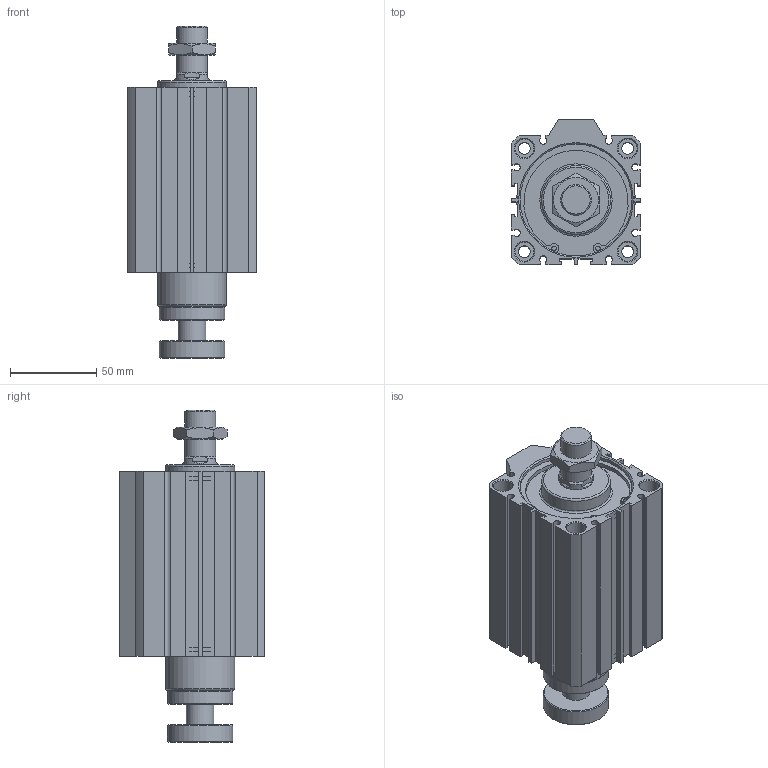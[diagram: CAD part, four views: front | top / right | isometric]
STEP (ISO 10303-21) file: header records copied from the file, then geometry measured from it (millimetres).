
FILE_DESCRIPTION((''),'2;1');
FILE_NAME('I:\3D電子目錄\氣缸\JDAR\JDAR-BS\JDAR63-BS\JDAR63x65-BS.stp','2007-05-05T14:39:10',('662F206'),(''),'Autodesk Inventor 11','Autodesk Inventor 11','');
FILE_SCHEMA(('AUTOMOTIVE_DESIGN { 1 0 10303 214 1 1 1 1 }'));
Length unit declared in the file: millimetre
Products named in the file (3): JDAR63-BS; R 形環 65
Assembly tree (3 placements, depth 2):
  JDAR63-BS
    JDAR63-BS
    R 形環 65  x2
Bounding box: 75 x 84.5 x 192.8 mm (x, y, z)
Volume: 617434.1 mm3; surface area: 88278.6 mm2
Topology: 3 solids, 3 shells, 203 faces, 490 edges, 319 vertices
Faces by surface type: plane 118, cylinder 56, cone 25, bspline 2, torus 2
Full cylindrical faces by diameter (mm): 2.7 x4, 3 x2, 6.8 x4, 11 x8, 16 x1, 18 x2, 20 x1, 38 x2, 40 x2, 65 x4, 68 x2
Entity records: 5389 total; most frequent: CARTESIAN_POINT 1017, DIRECTION 902, ORIENTED_EDGE 798, EDGE_CURVE 399, AXIS2_PLACEMENT_3D 328, VERTEX_POINT 293, EDGE_LOOP 284, VECTOR 246
